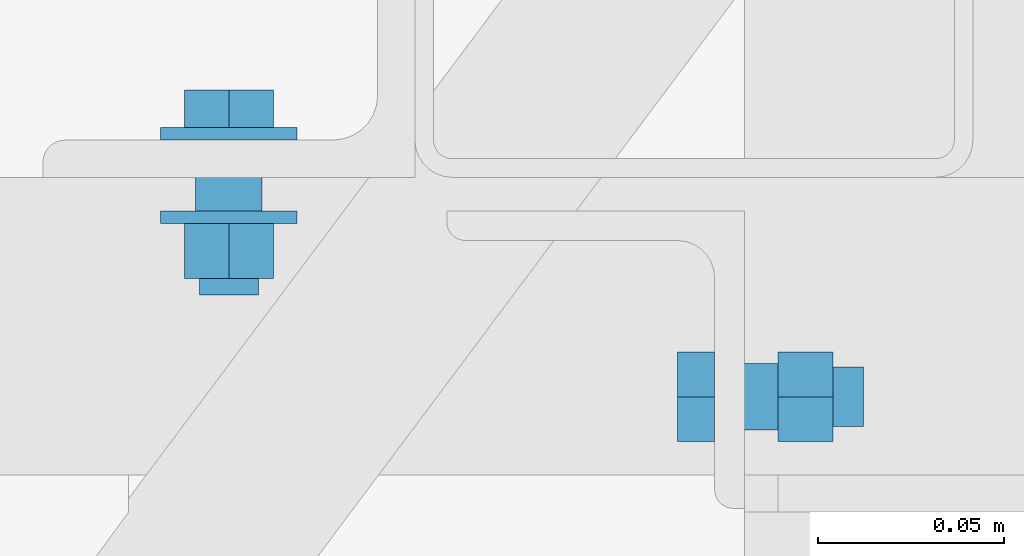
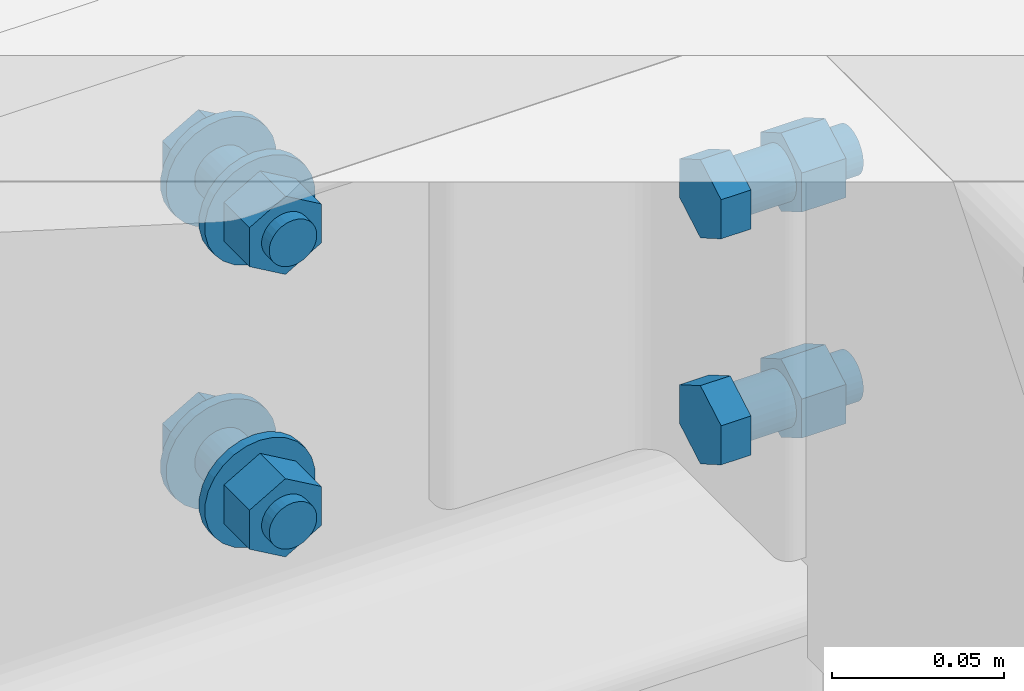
# One storey, part 73 of 78: 2 mechanical fasteners, 2 elements without a shape of their own.
"""IFC2X3 building model written with IfcOpenShell, lengths in millimetres."""

from ifc_helpers import new_model, si_unit, frame, origin_with_axes, origin_2d_with_axis, place, context, subcontext, project, spatial, polyline, circle, outline, extrude, source, transform, mapped, material, type_object, element, aggregate, save


model = new_model("IFC2X3")

# Units and contexts
model_context = context("Model", 3, precision=1e-05, world=origin_with_axes())
body_context = subcontext(model_context, "Body", "Model", "MODEL_VIEW")
ifc_project = project(units=[si_unit("LENGTHUNIT", "METRE", prefix="MILLI"), si_unit("AREAUNIT", "SQUARE_METRE"), si_unit("VOLUMEUNIT", "CUBIC_METRE"), si_unit("MASSUNIT", "GRAM", prefix="KILO"), si_unit("TIMEUNIT", "SECOND"), si_unit("PLANEANGLEUNIT", "RADIAN"), si_unit("SOLIDANGLEUNIT", "STERADIAN"), si_unit("THERMODYNAMICTEMPERATUREUNIT", "DEGREE_CELSIUS"), si_unit("LUMINOUSINTENSITYUNIT", "LUMEN")], contexts=[model_context])

# Site, building, storey
site_placement = place(None, origin_with_axes())
site = spatial("IfcSite", under=ifc_project, at=site_placement, Name="Site", CompositionType="ELEMENT")
building_placement = place(site_placement, origin_with_axes())
building = spatial("IfcBuilding", under=site, at=building_placement, Name="Undefined", CompositionType="ELEMENT")
storey_placement = place(building_placement, origin_with_axes())
storey = spatial("IfcBuildingStorey", under=building, at=storey_placement, Name="Undefined", CompositionType="ELEMENT", Elevation=0.0)

# Assembly, mechanical fastener
assembly_1_placement = place(storey_placement, origin_with_axes())
assembly_1 = element("IfcElementAssembly", 1, at=assembly_1_placement, inside=storey, AssemblyPlace="NOTDEFINED", PredefinedType="RIGID_FRAME")
ifc_material = material(Name="8.8")
mechanical_fastener_type = type_object("IfcMechanicalFastenerType", Name="Bolt assembly")
shared_shape_1 = source(origin_with_axes(), body_context, "Body", "SweptSolid", [
    extrude(circle(Radius=9.0, at=origin_2d_with_axis()), frame((0.0, -7.89999999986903, 0.0), z_axis=(0.0, 1.0, 0.0), x_axis=(1.0, 0.0, 0.0)), (0.0, 0.0, 1.0), 8.0),
    extrude(circle(Radius=9.0, at=origin_2d_with_axis()), frame((0.0, -0.0999999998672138, 0.0), z_axis=(0.0, 1.0, 0.0), x_axis=(1.0, 0.0, 0.0)), (0.0, 0.0, 1.0), 9.1),
    extrude(outline(polyline([(13.85640646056, 0.0), (6.92820323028, 12.0000000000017), (-6.92820323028, 12.0000000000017), (-13.85640646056, 0.0), (-6.92820323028, -12.0000000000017), (6.92820323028, -12.0000000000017), (13.85640646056, 0.0)])), frame((0.0, -17.999999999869, 0.0), z_axis=(0.0, 1.0, 0.0), x_axis=(1.0, 0.0, 0.0)), (0.0, 0.0, 1.0), 10.0),
    extrude(circle(Radius=8.0, at=origin_2d_with_axis()), frame((0.0, -7.99999999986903, 0.0), z_axis=(0.0, 1.0, 0.0), x_axis=(1.0, 0.0, 0.0)), (0.0, 0.0, 1.0), 40.0),
    extrude(outline(polyline([(13.85640646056, 0.0), (6.92820323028, 12.0000000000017), (-6.92820323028, 12.0000000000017), (-13.85640646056, 0.0), (-6.92820323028, -12.0000000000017), (6.92820323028, -12.0000000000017), (13.85640646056, 0.0)])), frame((0.0, 9.0, 0.0), z_axis=(0.0, 1.0, 0.0), x_axis=(1.0, 0.0, 0.0)), (0.0, 0.0, 1.0), 14.8),
])
mechanical_fastener_1_placement = place(assembly_1_placement, frame((-31182.8600000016, 12724.0, 156670.039999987), z_axis=(0.0, -1.0, 0.0), x_axis=(0.0, 0.0, -1.0)))
mechanical_fastener_1 = element("IfcMechanicalFastener", 2, at=mechanical_fastener_1_placement, type_object=mechanical_fastener_type, material=ifc_material, Name="Bolt assembly", NominalDiameter=16.0, NominalLength=40.0, context=body_context, shape_type="MappedRepresentation", body=[
    mapped(shared_shape_1, transform((70.0, 0.0, 50.0))),
    mapped(shared_shape_1, transform((150.0, 0.0, 50.0))),
])
aggregate(assembly_1, [mechanical_fastener_1])

assembly_2_placement = place(storey_placement, origin_with_axes())
assembly_2 = element("IfcElementAssembly", 3, at=assembly_2_placement, inside=storey, AssemblyPlace="NOTDEFINED", PredefinedType="RIGID_FRAME")
shared_shape_2 = source(origin_with_axes(), body_context, "Body", "SweptSolid", [
    extrude(circle(Radius=9.0, at=origin_2d_with_axis()), frame((0.0, -9.9, 0.0), z_axis=(0.0, 1.0, 0.0), x_axis=(1.0, 0.0, 0.0)), (0.0, 0.0, 1.0), 10.0),
    extrude(circle(Radius=9.0, at=origin_2d_with_axis()), frame((0.0, -0.0999999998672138, 0.0), z_axis=(0.0, 1.0, 0.0), x_axis=(1.0, 0.0, 0.0)), (0.0, 0.0, 1.0), 9.1),
    extrude(outline(polyline([(13.85640646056, 0.0), (6.92820323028, 12.0000000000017), (-6.92820323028, 12.0000000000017), (-13.85640646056, 0.0), (-6.92820323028, -12.0000000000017), (6.92820323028, -12.0000000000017), (13.85640646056, 0.0)])), frame((0.0, -23.4000000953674, 0.0), z_axis=(0.0, 1.0, 0.0), x_axis=(1.0, 0.0, 0.0)), (0.0, 0.0, 1.0), 10.0),
    extrude(circle(Radius=8.0, at=origin_2d_with_axis()), frame((0.0, -13.4000000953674, 0.0), z_axis=(0.0, 1.0, 0.0), x_axis=(1.0, 0.0, 0.0)), (0.0, 0.0, 1.0), 45.0),
    extrude(circle(Radius=18.5, at=origin_2d_with_axis()), frame((0.0, -13.4000000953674, 0.0), z_axis=(0.0, 1.0, 0.0), x_axis=(1.0, 0.0, 0.0)), (0.0, 0.0, 1.0), 3.4),
    extrude(circle(Radius=18.5, at=origin_2d_with_axis()), frame((0.0, 9.0, 0.0), z_axis=(0.0, 1.0, 0.0), x_axis=(1.0, 0.0, 0.0)), (0.0, 0.0, 1.0), 3.4),
    extrude(outline(polyline([(13.85640646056, 0.0), (6.92820323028, 12.0000000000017), (-6.92820323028, 12.0000000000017), (-13.85640646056, 0.0), (-6.92820323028, -12.0000000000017), (6.92820323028, -12.0000000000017), (13.85640646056, 0.0)])), frame((0.0, 12.4000000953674, 0.0), z_axis=(0.0, 1.0, 0.0), x_axis=(1.0, 0.0, 0.0)), (0.0, 0.0, 1.0), 14.8),
])
mechanical_fastener_2_placement = place(assembly_2_placement, frame((-31321.43, 12733.0, 156610.04), z_axis=(-1.0, 0.0, 0.0), x_axis=(0.0, 0.0, -1.0)))
mechanical_fastener_2 = element("IfcMechanicalFastener", 4, at=mechanical_fastener_2_placement, type_object=mechanical_fastener_type, material=ifc_material, Name="Bolt assembly", NominalDiameter=16.0, NominalLength=45.0, context=body_context, shape_type="MappedRepresentation", body=[
    mapped(shared_shape_2, transform((0.0, 0.0, 0.0))),
    mapped(shared_shape_2, transform((100.0, 0.0, 0.0))),
])
aggregate(assembly_2, [mechanical_fastener_2])

save(model, "model.ifc")
